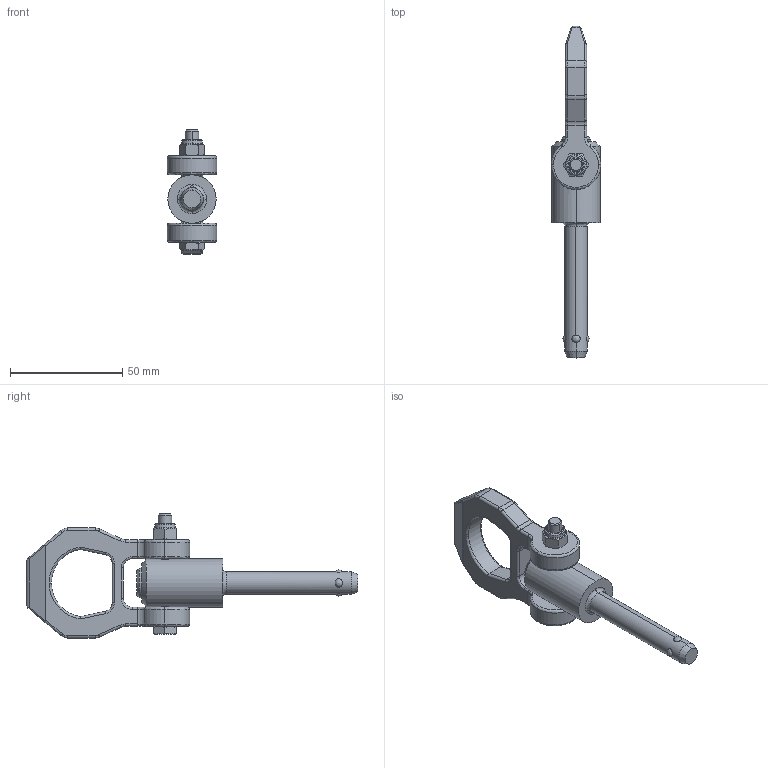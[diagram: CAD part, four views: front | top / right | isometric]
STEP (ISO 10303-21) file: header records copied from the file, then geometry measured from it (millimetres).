
FILE_DESCRIPTION (( 'STEP AP214' ), '1' );
FILE_NAME ('1130-10-50-NI.step', '2023-05-11T09:32:19', ( '' ), ( '' ), 'SwSTEP 2.0', 'SolidWorks 2022', '' );
FILE_SCHEMA (( 'AUTOMOTIVE_DESIGN' ));
Length unit declared in the file: millimetre
Products named in the file (3): 1130-10-50-NI; Kopie von bolzen1^WB1130_NI_10-50-NI; Kopie von ring2^WB1130_NI
Assembly tree (2 placements, depth 2):
  1130-10-50-NI
    Kopie von bolzen1^WB1130_NI_10-50-NI
    Kopie von ring2^WB1130_NI
Bounding box: 22 x 147.7 x 55.25 mm (x, y, z)
Volume: 36812.5 mm3; surface area: 13295.8 mm2
Topology: 2 solids, 2 shells, 244 faces, 607 edges, 375 vertices
Faces by surface type: plane 83, cylinder 77, bspline 54, cone 26, torus 4
Entity records: 9672 total; most frequent: CARTESIAN_POINT 4372, ORIENTED_EDGE 1214, DIRECTION 887, EDGE_CURVE 607, VERTEX_POINT 375, AXIS2_PLACEMENT_3D 329, EDGE_LOOP 258, FACE_OUTER_BOUND 244
